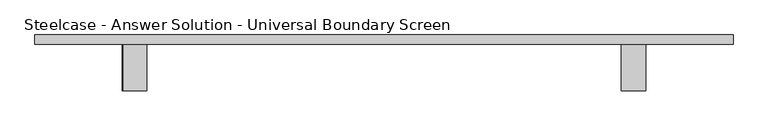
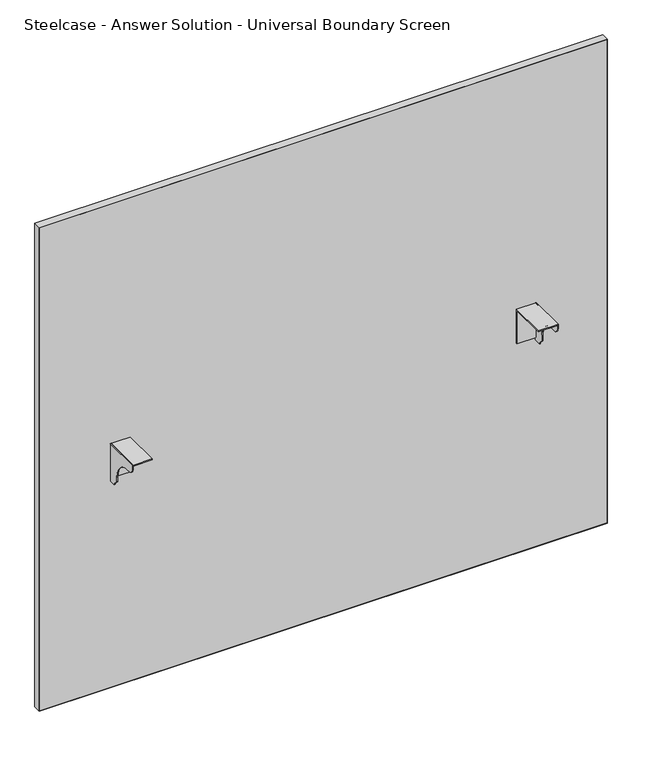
"""IFC4 building model written with IfcOpenShell, lengths in millimetres: furniture geometry, Steelcase - Answer Solution - Universal Boundary Screen : 54H x 60W."""

from ifc_helpers import new_model, si_unit, point, frame, frame_2d, origin, place, context, project, spatial, polyline, circle_curve, trimmed, segment, composite_curve, outline, extrude, source, transform, mapped, element, save


def steelcase_answer_solution_universal_boundary_screen_c41f423b(model_context):
    return source(origin(), model_context, "Body", "SweptSolid", [
        extrude(outline(polyline([(-103.1670434, 689.3558876), (-103.1670434, 692.1499758), (-1.5668826, 692.1499758), (-1.5668826, 595.5029317), (-4.1079736, 595.5029317), (-4.1079736, 689.3558876), (-103.1670434, 689.3558876)])), frame((1048.2336711, 0.0, 0.0), z_axis=(1.0, 0.0, 0.0), x_axis=(0.0, 1.0, 0.0)), (0.0, 0.0, 1.0), 53.3444116),
        extrude(outline(composite_curve([segment(polyline([(-103.1670434, 679.2814802), (-103.1670434, 692.1499758), (-1.5668826, 692.1499758), (-1.5668826, 586.9634093), (-19.8232934, 586.9634093), (-19.8232934, 589.7574248), (-32.0458032, 601.9799346), (-32.0458032, 615.7814802)]), True, "CONTINUOUS"), segment(trimmed(circle_curve(frame_2d((-82.8458032, 615.7814802)), 50.8), [point((-32.0458032, 615.7814802))], [point((-82.8458032, 666.5814802))], True, "CARTESIAN"), True, "CONTINUOUS"), segment(polyline([(-82.8458032, 666.5814802), (-90.4670434, 666.5814802)]), True, "CONTINUOUS"), segment(trimmed(circle_curve(frame_2d((-90.4670434, 679.2814802)), 12.7), [point((-90.4670434, 666.5814802))], [point((-103.1670434, 679.2814802))], False, "CARTESIAN"), True, "CONTINUOUS")], self_intersect=False)), frame((1099.0328959, 0.0, 0.0), z_axis=(1.0, 0.0, 0.0), x_axis=(0.0, 1.0, 0.0)), (0.0, 0.0, 1.0), 2.5451868),
        extrude(outline(polyline([(-103.1670434, 689.3558876), (-103.1670434, 692.1499758), (-1.5668826, 692.1499758), (-1.5668826, 595.5029317), (-4.1079736, 595.5029317), (-4.1079736, 689.3558876), (-103.1670434, 689.3558876)])), frame((-38.8767306, 0.0, 0.0), z_axis=(1.0, 0.0, 0.0), x_axis=(0.0, 1.0, 0.0)), (0.0, 0.0, 1.0), 50.7992249),
        extrude(outline(composite_curve([segment(polyline([(-103.1670434, 679.2814802), (-103.1670434, 692.1499758), (-1.5668826, 692.1499758), (-1.5668826, 586.9634093), (-19.8232934, 586.9634093), (-19.8232934, 589.7574248), (-32.0458032, 601.9799346), (-32.0458032, 615.7814802)]), True, "CONTINUOUS"), segment(trimmed(circle_curve(frame_2d((-82.8458032, 615.7814802)), 50.8), [point((-32.0458032, 615.7814802))], [point((-82.8458032, 666.5814802))], True, "CARTESIAN"), True, "CONTINUOUS"), segment(polyline([(-82.8458032, 666.5814802), (-90.4670434, 666.5814802)]), True, "CONTINUOUS"), segment(trimmed(circle_curve(frame_2d((-90.4670434, 679.2814802)), 12.7), [point((-90.4670434, 666.5814802))], [point((-103.1670434, 679.2814802))], False, "CARTESIAN"), True, "CONTINUOUS")], self_intersect=False)), frame((-41.4219173, 0.0, 0.0), z_axis=(1.0, 0.0, 0.0), x_axis=(0.0, 1.0, 0.0)), (0.0, 0.0, 1.0), 2.5451868),
        extrude(outline(polyline([(-230.9293422, 18.9055112), (1291.0855076, 18.9055112), (1291.0855076, -1.5668826), (-230.9293422, -1.5668826), (-230.9293422, 18.9055112)])), frame((0.0, 0.0, 1.016), z_axis=(0.0, 0.0, 1.0), x_axis=(1.0, 0.0, 0.0)), (0.0, 0.0, 1.0), 1369.5914249),
        extrude(outline(polyline([(1371.6, 1292.0780827), (1371.6, -231.9219173), (0.0, -231.9219173), (0.0, 1292.0780827), (1371.6, 1292.0780827)]), holes=[polyline([(1370.6074249, 1291.0855076), (1.016, 1291.0855076), (1.016, -230.9293422), (1370.6074249, -230.9293422), (1370.6074249, 1291.0855076)])]), frame((0.0, -1.5668826, 0.0), z_axis=(0.0, 1.0, 0.0), x_axis=(0.0, 0.0, 1.0)), (0.0, 0.0, 1.0), 20.4723938),
    ])


if __name__ == "__main__":
    model = new_model("IFC4")
    model_context = context("Model", 3, world=origin())
    ifc_project = project(units=[si_unit("LENGTHUNIT", "METRE", prefix="MILLI")], contexts=[model_context])
    site = spatial("IfcSite", under=ifc_project)
    building = spatial("IfcBuilding", under=site)
    placement = place(None, origin())
    steelcase_answer_solution_universal_boundary_screen_shape = steelcase_answer_solution_universal_boundary_screen_c41f423b(model_context)
    element("IfcFurniture", 1, ObjectType="Steelcase - Answer Solution - Universal Boundary Screen : 54H x 60W", at=placement, inside=building, context=model_context, shape_type="MappedRepresentation", body=[
        mapped(steelcase_answer_solution_universal_boundary_screen_shape, transform((0.0, 0.0, 0.0), x_axis=(1.0, 0.0, 0.0), y_axis=(0.0, 1.0, 0.0), z_axis=(0.0, 0.0, 1.0))),
    ])
    save(model, "model.ifc")
